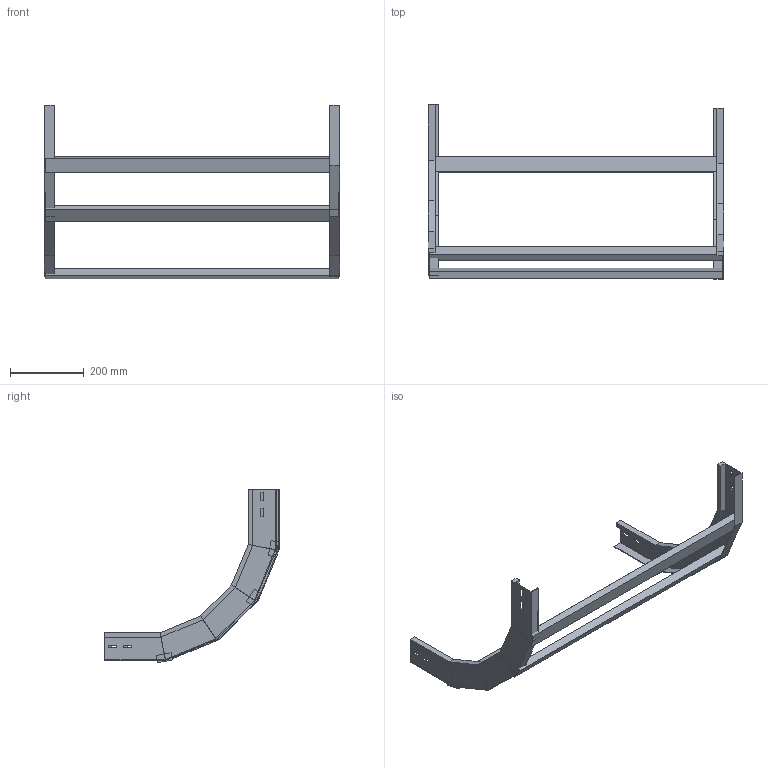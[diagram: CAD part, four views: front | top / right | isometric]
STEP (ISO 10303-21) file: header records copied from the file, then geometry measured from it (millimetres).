
FILE_DESCRIPTION (( 'STEP AP214' ), '1' );
FILE_NAME ('A2X30B3C800XX.step', '2025-04-02T08:49:37', ( '' ), ( '' ), 'SwSTEP 2.0', 'SolidWorks 2023', '' );
FILE_SCHEMA (( 'AUTOMOTIVE_DESIGN' ));
Length unit declared in the file: millimetre
Products named in the file (3): TRAVERSINO_800; A2X30B3C800XX; LONGH.SALITA_90°_H75_R300
Assembly tree (5 placements, depth 2):
  A2X30B3C800XX
    LONGH.SALITA_90°_H75_R300  x2
    TRAVERSINO_800  x3
Bounding box: 800 x 472.38 x 470.38 mm (x, y, z)
Volume: 2479191.7 mm3; surface area: 634074.2 mm2
Topology: 5 solids, 5 shells, 134 faces, 308 edges, 184 vertices
Faces by surface type: plane 134
Entity records: 1864 total; most frequent: CARTESIAN_POINT 308, ORIENTED_EDGE 296, DIRECTION 292, EDGE_CURVE 148, VECTOR 148, LINE 148, VERTEX_POINT 88, EDGE_LOOP 72
